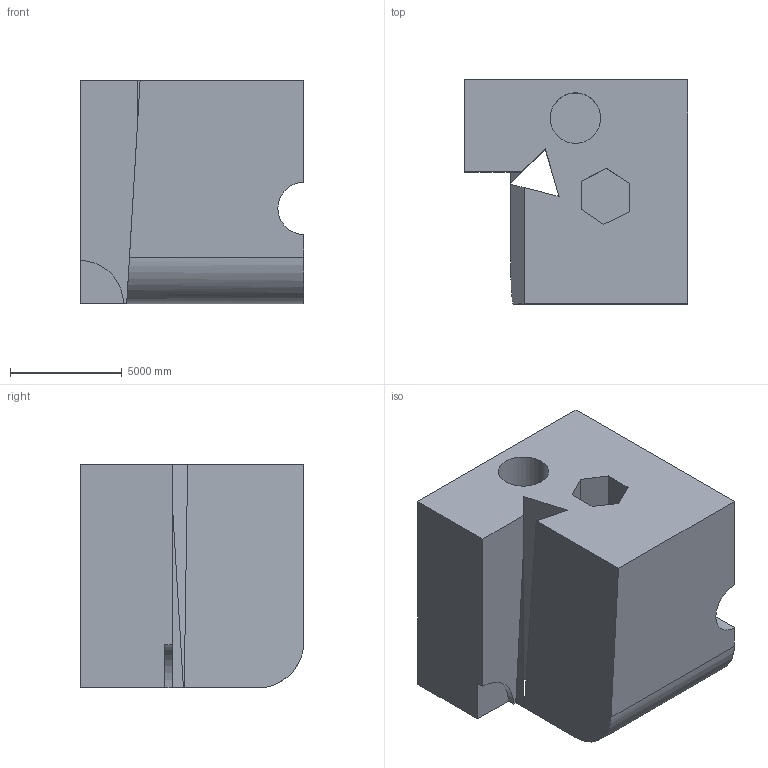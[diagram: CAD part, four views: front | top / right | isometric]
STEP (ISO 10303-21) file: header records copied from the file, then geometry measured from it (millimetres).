
FILE_DESCRIPTION (( 'STEP AP203' ), '1' );
FILE_NAME ('693.STEP', '2022-07-29T12:34:00', ( 'user' ), ( '' ), 'SwSTEP 2.0', 'SolidWorks 2021', '' );
FILE_SCHEMA (( 'CONFIG_CONTROL_DESIGN' ));
Length unit declared in the file: centimetre
Products named in the file (1): 693
Bounding box: 10000 x 10000 x 10000 mm (x, y, z)
Volume: 766528285530 mm3; surface area: 699627824.6 mm2
Topology: 1 solids, 1 shells, 27 faces, 69 edges, 46 vertices
Faces by surface type: plane 22, cylinder 5
Entity records: 889 total; most frequent: CARTESIAN_POINT 146, ORIENTED_EDGE 138, DIRECTION 133, EDGE_CURVE 69, VECTOR 59, LINE 59, VERTEX_POINT 46, AXIS2_PLACEMENT_3D 37
